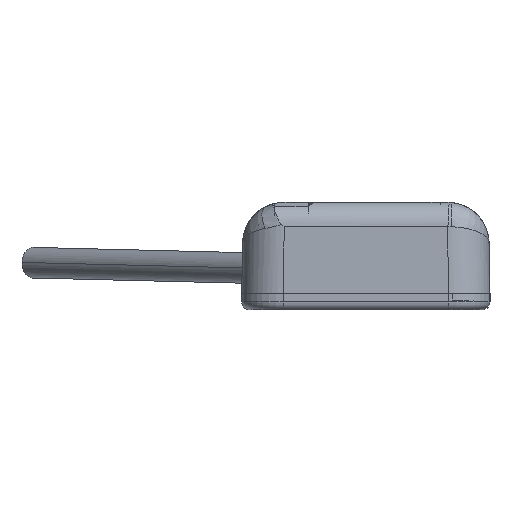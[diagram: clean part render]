
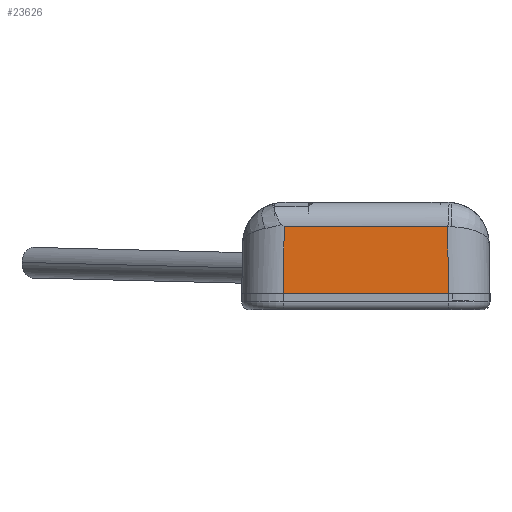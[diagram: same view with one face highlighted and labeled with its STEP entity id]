
A CAD part, left-side view. The second image highlights one B-rep face of the part: STEP entity #23626.
In plain terms, the highlighted planar face has unit normal (-1, 0, 0.018).
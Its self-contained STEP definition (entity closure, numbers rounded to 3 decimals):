
#2643=DIRECTION('',(0.,1.,0.));
#2644=VECTOR('',#2643,20.002);
#2645=CARTESIAN_POINT('',(-95.25,-39.852,0.));
#2646=LINE('',#2645,#2644);
#10279=DIRECTION('',(0.,-1.,0.));
#10280=VECTOR('',#10279,19.723);
#10281=CARTESIAN_POINT('',(-95.109,-19.991,
8.052));
#10282=LINE('',#10281,#10280);
#10291=CARTESIAN_POINT('',(-95.109,-19.991,
8.052));
#10380=CARTESIAN_POINT('',(-95.109,-39.714,
8.055));
#10446=DIRECTION('',(0.017,0.017,1.));
#10447=VECTOR('',#10446,8.058);
#10448=CARTESIAN_POINT('',(-95.25,-39.852,0.));
#10449=LINE('',#10448,#10447);
#10453=DIRECTION('',(-0.017,0.017,-1.));
#10454=VECTOR('',#10453,8.055);
#10455=CARTESIAN_POINT('',(-95.109,-19.991,
8.052));
#10456=LINE('',#10455,#10454);
#13137=VERTEX_POINT('',#10380);
#13146=VERTEX_POINT('',#10291);
#13519=CARTESIAN_POINT('',(-95.25,-39.852,0.));
#13520=VERTEX_POINT('',#13519);
#13522=CARTESIAN_POINT('',(-95.25,-19.85,0.));
#13523=VERTEX_POINT('',#13522);
#23615=CARTESIAN_POINT('',(-95.25,-29.851,0.));
#23616=DIRECTION('',(-1.,0.,0.017));
#23617=DIRECTION('',(0.017,0.,1.));
#23618=AXIS2_PLACEMENT_3D('',#23615,#23616,#23617);
#23619=PLANE('',#23618);
#23620=ORIENTED_EDGE('',*,*,#23597,.F.);
#23621=ORIENTED_EDGE('',*,*,#16727,.T.);
#23622=ORIENTED_EDGE('',*,*,#23374,.F.);
#23623=ORIENTED_EDGE('',*,*,#23393,.T.);
#23624=EDGE_LOOP('',(#23620,#23621,#23622,#23623));
#23625=FACE_OUTER_BOUND('',#23624,.F.);
#16727=EDGE_CURVE('',#13520,#13523,#2646,.T.);
#23374=EDGE_CURVE('',#13146,#13523,#10456,.T.);
#23393=EDGE_CURVE('',#13146,#13137,#10282,.T.);
#23597=EDGE_CURVE('',#13520,#13137,#10449,.T.);
#23626=ADVANCED_FACE('',(#23625),#23619,.T.);
